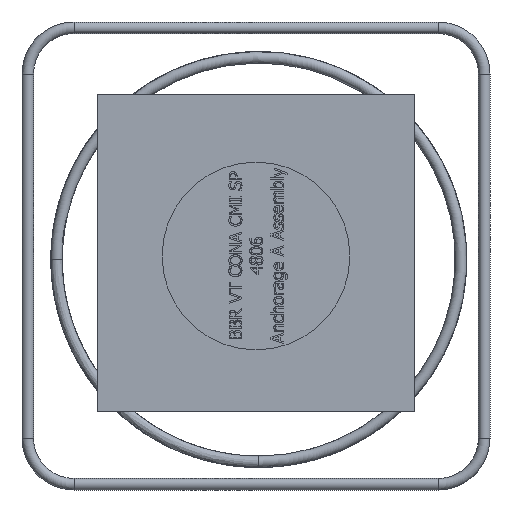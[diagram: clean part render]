
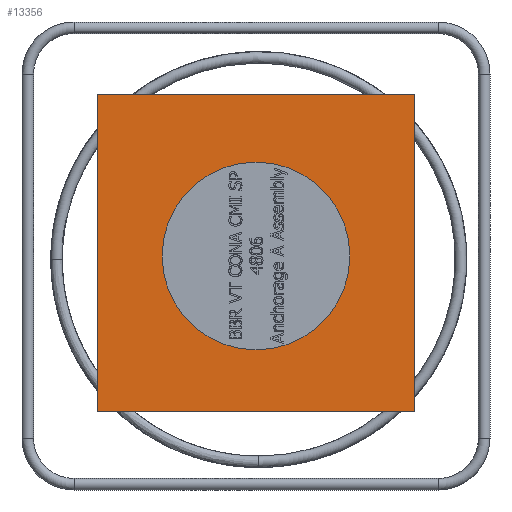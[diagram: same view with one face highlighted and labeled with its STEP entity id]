
A CAD part, left-side view. The second image highlights one B-rep face of the part: STEP entity #13356.
In plain terms, the highlighted planar face has unit normal (-1, 0, 0).
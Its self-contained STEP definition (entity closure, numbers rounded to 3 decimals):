
#1974=LINE('',#30512,#3042);
#1978=LINE('',#30519,#3046);
#1981=LINE('',#30524,#3049);
#1984=LINE('',#30528,#3052);
#3042=VECTOR('',#15913,550.);
#3046=VECTOR('',#15919,550.);
#3049=VECTOR('',#15924,550.);
#3052=VECTOR('',#15929,550.);
#3372=PLANE('',#13867);
#3566=FACE_BOUND('',#5141,.T.);
#4288=FACE_OUTER_BOUND('',#5140,.T.);
#5140=EDGE_LOOP('',(#11807,#11808,#11809,#11810));
#5141=EDGE_LOOP('',(#11811));
#5265=CIRCLE('',#13825,162.5);
#6474=VERTEX_POINT('',#23493);
#6501=VERTEX_POINT('',#30510);
#6502=VERTEX_POINT('',#30511);
#6504=VERTEX_POINT('',#30518);
#6505=VERTEX_POINT('',#30523);
#8245=EDGE_CURVE('',#6474,#6474,#5265,.T.);
#8274=EDGE_CURVE('',#6501,#6502,#1974,.T.);
#8278=EDGE_CURVE('',#6502,#6504,#1978,.T.);
#8281=EDGE_CURVE('',#6504,#6505,#1981,.T.);
#8284=EDGE_CURVE('',#6505,#6501,#1984,.T.);
#11807=ORIENTED_EDGE('',*,*,#8284,.T.);
#11808=ORIENTED_EDGE('',*,*,#8274,.T.);
#11809=ORIENTED_EDGE('',*,*,#8278,.T.);
#11810=ORIENTED_EDGE('',*,*,#8281,.T.);
#11811=ORIENTED_EDGE('',*,*,#8245,.T.);
#13356=ADVANCED_FACE('',(#4288,#3566),#3372,.F.);
#13825=AXIS2_PLACEMENT_3D('',#23494,#15829,#15830);
#13867=AXIS2_PLACEMENT_3D('',#30530,#15931,#15932);
#15829=DIRECTION('center_axis',(1.,0.,0.));
#15830=DIRECTION('ref_axis',(0.,0.,
-1.));
#15913=DIRECTION('',(0.,0.,-1.));
#15919=DIRECTION('',(0.,-1.,0.));
#15924=DIRECTION('',(0.,0.,1.));
#15929=DIRECTION('',(0.,1.,0.));
#15931=DIRECTION('center_axis',(1.,0.,0.));
#15932=DIRECTION('ref_axis',(0.,0.,1.));
#23493=CARTESIAN_POINT('',(-112.151,0.,-162.5));
#23494=CARTESIAN_POINT('Origin',(-112.151,0.,
0.));
#30510=CARTESIAN_POINT('',(-112.151,275.,280.253));
#30511=CARTESIAN_POINT('',(-112.151,275.,-269.747));
#30512=CARTESIAN_POINT('',(-112.151,275.,280.253));
#30518=CARTESIAN_POINT('',(-112.151,-275.,-269.747));
#30519=CARTESIAN_POINT('',(-112.151,275.,-269.747));
#30523=CARTESIAN_POINT('',(-112.151,-275.,280.253));
#30524=CARTESIAN_POINT('',(-112.151,-275.,-269.747));
#30528=CARTESIAN_POINT('',(-112.151,-275.,280.253));
#30530=CARTESIAN_POINT('Origin',(-112.151,0.,
5.253));
